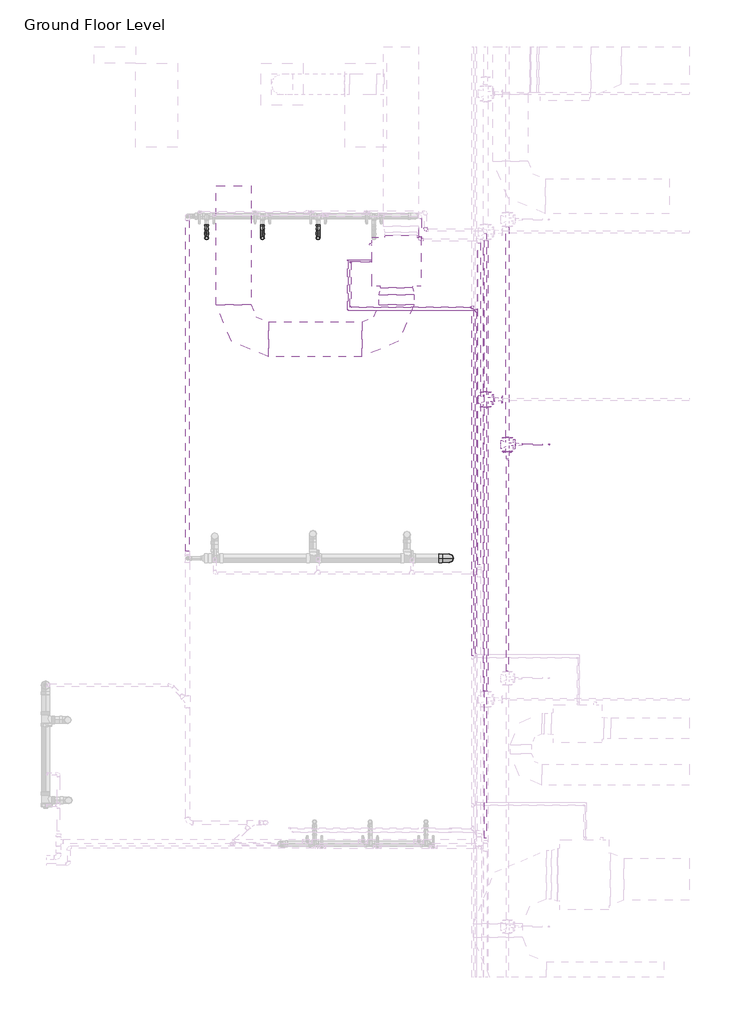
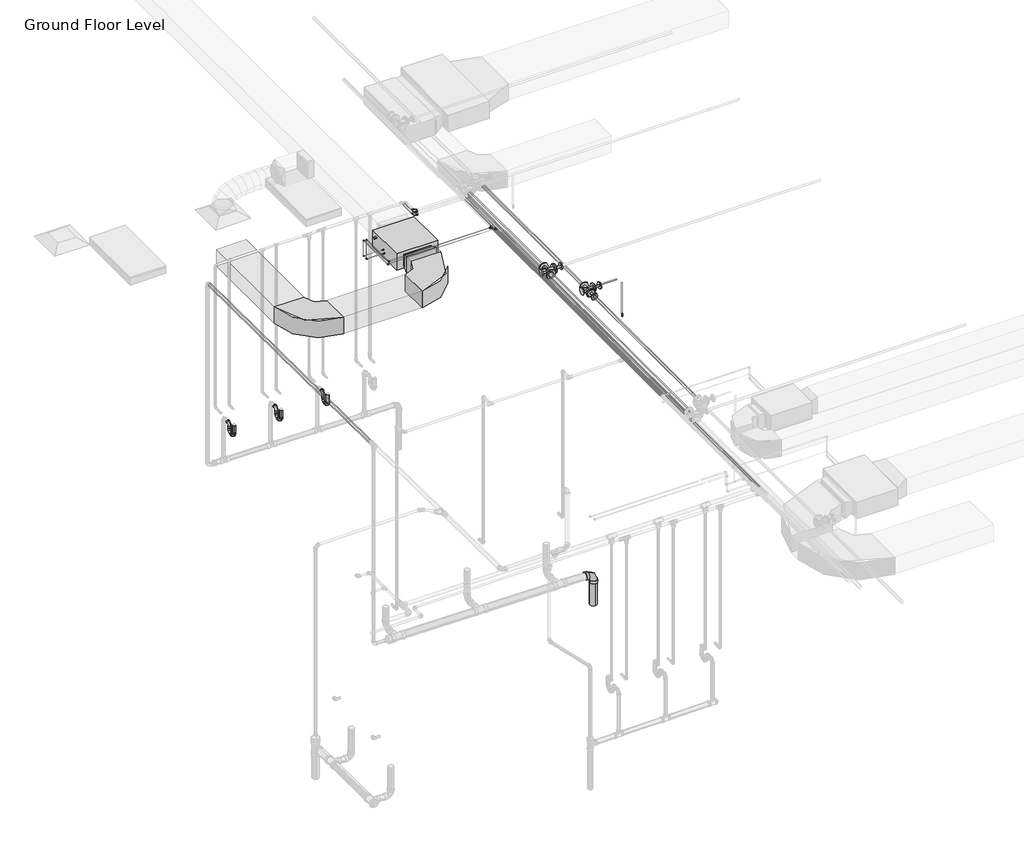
# One storey, part 21 of 74: 30 pipe segments, 27 pipe fittings, 3 duct fittings, 3 duct segments, 1 fire suppression terminal, 1 proxy.
"""IFC4 building model written with IfcOpenShell, lengths in millimetres."""

from ifc_helpers import new_model, si_unit, point, frame, frame_2d, origin, place, context, project, spatial, polyline, circle_curve, trimmed, segment, composite_curve, outline, extrude, transform, mapped, element, save
from components import fcu_daikin_iu_bad131e0, m_rectangular_elbow_radius_1_w_abe20169, m_rectangular_transition_angle_45_degree_f7c2916c, m_sprinkler_pendent_15_mm_pendent_06fcbd8e, m_bend_pvc_sch_40_dwv_standard_b7b4a97e, m_bend_pvc_sch_40_dwv_standard_1e7bdcc1, m_bend_pvc_sch_40_dwv_standard_776e50c4, m_elbow_generic_standard_a088f956, m_elbow_generic_standard_2a704253, m_reducer_flanged_cs_class_150_standard_b6b67c23, m_reducer_flanged_cs_class_150_standard_cc2a7c1d, m_reducer_flanged_cs_class_150_standard_a7631c35, m_tee_generic_standard_5b2ed4d4, m_tee_generic_standard_5078887e, m_tee_round_base_flanged_cs_class_150_standard_dd767e04, m_tee_round_base_flanged_cs_class_150_standard_9c9133d0, m_transition_generic_standard_bdcfe2c1, m_transition_generic_standard_44e35838, standard_517a5a8d

model = new_model("IFC4")

# Units and contexts
model_context = context("Model", 3, world=origin())
ifc_project = project(units=[si_unit("LENGTHUNIT", "METRE", prefix="MILLI")], contexts=[model_context])

# Site, building, storey
site = spatial("IfcSite", under=ifc_project)
building = spatial("IfcBuilding", under=site)
storey = spatial("IfcBuildingStorey", under=building, Name="Ground Floor Level", Elevation=900.0)

# Proxy
placement = place(None, origin())
fcu_daikin_iu_shape = fcu_daikin_iu_bad131e0(model_context)
element("IfcBuildingElementProxy", 1, Name="FCU-DAIKIN IU : 4.5kW, 230V/50Hz/1Ph", ObjectType="FCU-DAIKIN IU : 4.5kW, 230V/50Hz/1Ph", at=placement, inside=storey, context=model_context, shape_type="MappedRepresentation", body=[
    mapped(fcu_daikin_iu_shape, transform((4405.6581832, -24507.2627051, 3934.1054453), x_axis=(-1.0, 0.0, 0.0), y_axis=(0.0, -1.0, 0.0), z_axis=(0.0, 0.0, 1.0))),
])

# Duct fittings
m_rectangular_elbow_radius_1_w_shape = m_rectangular_elbow_radius_1_w_abe20169(model_context)
element("IfcDuctFitting", 2, ObjectType="M_Rectangular Elbow - Radius : 1 W", at=placement, inside=storey, context=model_context, shape_type="MappedRepresentation", body=[
    mapped(m_rectangular_elbow_radius_1_w_shape, transform((4405.6581832, -25622.6440715, 4075.3054453), x_axis=(1.0, 0.0, 0.0), y_axis=(0.0, 1.0, 0.0), z_axis=(0.0, 0.0, 1.0))),
])
element("IfcDuctFitting", 3, ObjectType="M_Rectangular Elbow - Radius : 1 W", at=placement, inside=storey, context=model_context, shape_type="MappedRepresentation", body=[
    mapped(m_rectangular_elbow_radius_1_w_shape, transform((2065.6581888, -25622.6440715, 4075.2875), x_axis=(0.0, -1.0, 0.0), y_axis=(1.0, 0.0, 0.0), z_axis=(0.0, 0.0, 1.0))),
])
m_rectangular_transition_angle_45_degree_shape = m_rectangular_transition_angle_45_degree_f7c2916c(model_context)
element("IfcDuctFitting", 4, ObjectType="M_Rectangular Transition - Angle : 45 Degree", at=placement, inside=storey, context=model_context, shape_type="MappedRepresentation", body=[
    mapped(m_rectangular_transition_angle_45_degree_shape, transform((4405.6581832, -24882.6627051, 4075.3054453), x_axis=(0.0, -1.0, 0.0), y_axis=(1.0, 0.0, 0.0), z_axis=(0.0, 0.0, 1.0))),
])

# Duct segments
element("IfcDuctSegment", 5, ObjectType="Radius Elbows / Taps", at=placement, inside=storey, context=model_context, shape_type="SweptSolid", body=[
    extrude(outline(polyline([(4155.6581832, -24986.1117562), (4655.6581832, -24986.1117562), (4655.6581832, -25122.6440715), (4155.6581832, -25122.6440715), (4155.6581832, -24986.1117562)])), frame((0.0, 0.0, 3925.3054453), z_axis=(0.0, 0.0, 1.0), x_axis=(1.0, 0.0, 0.0)), (0.0, 0.0, 1.0), 300.0),
])
element("IfcDuctSegment", 6, ObjectType="Radius Elbows / Taps", at=placement, inside=storey, context=model_context, shape_type="SweptSolid", body=[
    extrude(outline(polyline([(0.0, -500.0), (0.0, 0.0), (1339.9999945, 0.0), (1339.9999945, -500.0), (0.0, -500.0)])), frame((3905.660192, -25872.6440715, 3925.3054453), z_axis=(-1.3392036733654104e-05, 0.0, 0.9999999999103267), x_axis=(-0.9999999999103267, 0.0, -1.3392036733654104e-05)), (0.0, 0.0, 1.0), 300.0),
])
element("IfcDuctSegment", 7, ObjectType="Radius Elbows / Taps", at=placement, inside=storey, context=model_context, shape_type="SweptSolid", body=[
    extrude(outline(polyline([(2315.6581888, -25122.6440715), (1815.6581888, -25122.6440715), (1815.6581888, -23422.6440715), (2315.6581888, -23422.6440715), (2315.6581888, -25122.6440715)])), frame((0.0, 0.0, 3925.2875), z_axis=(0.0, 0.0, 1.0), x_axis=(1.0, 0.0, 0.0)), (0.0, 0.0, 1.0), 300.0),
])

# Fire suppression terminal
m_sprinkler_pendent_15_mm_pendent_shape = m_sprinkler_pendent_15_mm_pendent_06fcbd8e(model_context)
element("IfcFireSuppressionTerminal", 8, ObjectType="M_Sprinkler - Pendent : 15 mm Pendent", at=placement, inside=storey, context=model_context, shape_type="MappedRepresentation", body=[
    mapped(m_sprinkler_pendent_15_mm_pendent_shape, transform((6592.5481019, -27129.3982359, 3650.0), x_axis=(1.0, 0.0, 0.0), y_axis=(0.0, 1.0, 0.0), z_axis=(0.0, 0.0, 1.0))),
])

# Pipe fittings
m_bend_pvc_sch_40_dwv_standard_shape = m_bend_pvc_sch_40_dwv_standard_b7b4a97e(model_context)
element("IfcPipeFitting", 9, ObjectType="M_Bend - PVC - Sch 40 - DWV : Standard", at=placement, inside=storey, context=model_context, shape_type="MappedRepresentation", body=[
    mapped(m_bend_pvc_sch_40_dwv_standard_shape, transform((5158.4803359, -28761.5689421, 448.4416158), x_axis=(0.9999500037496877, 0.0, -0.00999950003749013), y_axis=(-0.00999950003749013, 0.0, -0.9999500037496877), z_axis=(0.0, 1.0, 0.0))),
])
m_bend_pvc_sch_40_dwv_standard_2_shape = m_bend_pvc_sch_40_dwv_standard_1e7bdcc1(model_context)
element("IfcPipeFitting", 10, ObjectType="M_Bend - PVC - Sch 40 - DWV : Standard", at=placement, inside=storey, context=model_context, shape_type="MappedRepresentation", body=[
    mapped(m_bend_pvc_sch_40_dwv_standard_2_shape, transform((1679.14976, -24168.3528577, 1360.0000049), x_axis=(0.0, 0.0, -1.0), y_axis=(0.0, 1.0, 0.0), z_axis=(1.0, 0.0, 0.0))),
])
element("IfcPipeFitting", 11, ObjectType="M_Bend - PVC - Sch 40 - DWV : Standard", at=placement, inside=storey, context=model_context, shape_type="MappedRepresentation", body=[
    mapped(m_bend_pvc_sch_40_dwv_standard_2_shape, transform((2479.14976, -24168.3528577, 1360.00001), x_axis=(0.0, -0.9999500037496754, 0.009999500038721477), y_axis=(0.0, 0.009999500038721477, 0.9999500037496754), z_axis=(-1.0, 0.0, 0.0))),
])
element("IfcPipeFitting", 12, ObjectType="M_Bend - PVC - Sch 40 - DWV : Standard", at=placement, inside=storey, context=model_context, shape_type="MappedRepresentation", body=[
    mapped(m_bend_pvc_sch_40_dwv_standard_2_shape, transform((3279.14976, -24168.3528577, 1360.0000049), x_axis=(0.0, -0.9999500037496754, 0.009999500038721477), y_axis=(0.0, 0.009999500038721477, 0.9999500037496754), z_axis=(-1.0, 0.0, 0.0))),
])
m_bend_pvc_sch_40_dwv_standard_3_shape = m_bend_pvc_sch_40_dwv_standard_776e50c4(model_context)
element("IfcPipeFitting", 13, ObjectType="M_Bend - PVC - Sch 40 - DWV : Standard", at=placement, inside=storey, context=model_context, shape_type="MappedRepresentation", body=[
    mapped(m_bend_pvc_sch_40_dwv_standard_3_shape, transform((1679.14976, -24038.3523645, 1358.7), x_axis=(0.0, 0.9999500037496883, -0.009999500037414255), y_axis=(0.0, 0.009999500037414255, 0.9999500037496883), z_axis=(1.0, 0.0, 0.0))),
])
element("IfcPipeFitting", 14, ObjectType="M_Bend - PVC - Sch 40 - DWV : Standard", at=placement, inside=storey, context=model_context, shape_type="MappedRepresentation", body=[
    mapped(m_bend_pvc_sch_40_dwv_standard_3_shape, transform((1679.14976, -24038.3523645, 1510.0493267), x_axis=(0.0, 0.0, 1.0), y_axis=(0.0, 1.0, 0.0), z_axis=(-1.0, 0.0, 0.0))),
])
element("IfcPipeFitting", 15, ObjectType="M_Bend - PVC - Sch 40 - DWV : Standard", at=placement, inside=storey, context=model_context, shape_type="MappedRepresentation", body=[
    mapped(m_bend_pvc_sch_40_dwv_standard_3_shape, transform((2479.14976, -24038.3518579, 1358.7), x_axis=(0.0, 0.9999500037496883, -0.009999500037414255), y_axis=(0.0, 0.009999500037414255, 0.9999500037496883), z_axis=(1.0, 0.0, 0.0))),
])
element("IfcPipeFitting", 16, ObjectType="M_Bend - PVC - Sch 40 - DWV : Standard", at=placement, inside=storey, context=model_context, shape_type="MappedRepresentation", body=[
    mapped(m_bend_pvc_sch_40_dwv_standard_3_shape, transform((2479.14976, -24038.3518579, 1510.09999), x_axis=(0.0, 0.0, 1.0), y_axis=(0.0, 1.0, 0.0), z_axis=(-1.0, 0.0, 0.0))),
])
element("IfcPipeFitting", 17, ObjectType="M_Bend - PVC - Sch 40 - DWV : Standard", at=placement, inside=storey, context=model_context, shape_type="MappedRepresentation", body=[
    mapped(m_bend_pvc_sch_40_dwv_standard_3_shape, transform((3279.14976, -24038.3523645, 1358.7), x_axis=(0.0, 0.9999500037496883, -0.009999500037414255), y_axis=(0.0, 0.009999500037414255, 0.9999500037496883), z_axis=(1.0, 0.0, 0.0))),
])
element("IfcPipeFitting", 18, ObjectType="M_Bend - PVC - Sch 40 - DWV : Standard", at=placement, inside=storey, context=model_context, shape_type="MappedRepresentation", body=[
    mapped(m_bend_pvc_sch_40_dwv_standard_3_shape, transform((3279.14976, -24038.3523645, 1510.0493267), x_axis=(0.0, 0.0, 1.0), y_axis=(0.0, 1.0, 0.0), z_axis=(-1.0, 0.0, 0.0))),
])
m_elbow_generic_standard_shape = m_elbow_generic_standard_a088f956(model_context)
element("IfcPipeFitting", 19, ObjectType="M_Elbow - Generic : Standard", at=placement, inside=storey, context=model_context, shape_type="MappedRepresentation", body=[
    mapped(m_elbow_generic_standard_shape, transform((3741.7995393, -24507.2440715, 4034.0875), x_axis=(-1.0, 0.0, 0.0), y_axis=(0.0, 0.0, 1.0), z_axis=(0.0, 1.0, 0.0))),
])
element("IfcPipeFitting", 20, ObjectType="M_Elbow - Generic : Standard", at=placement, inside=storey, context=model_context, shape_type="MappedRepresentation", body=[
    mapped(m_elbow_generic_standard_shape, transform((3741.7995393, -24507.2440715, 4390.0), x_axis=(0.0, 0.0, 1.0), y_axis=(0.0, -1.0, 0.0), z_axis=(1.0, 0.0, 0.0))),
])
element("IfcPipeFitting", 21, ObjectType="M_Elbow - Generic : Standard", at=placement, inside=storey, context=model_context, shape_type="MappedRepresentation", body=[
    mapped(m_elbow_generic_standard_shape, transform((3741.7995393, -25162.0896488, 4390.0), x_axis=(0.0, -1.0, 0.0), y_axis=(1.0, 0.0, 0.0), z_axis=(0.0, 0.0, 1.0))),
])
m_elbow_generic_standard_2_shape = m_elbow_generic_standard_2a704253(model_context)
element("IfcPipeFitting", 22, ObjectType="M_Elbow - Generic : Standard", at=placement, inside=storey, context=model_context, shape_type="MappedRepresentation", body=[
    mapped(m_elbow_generic_standard_2_shape, transform((3705.4496688, -24482.2440715, 4084.8875), x_axis=(-1.0, 0.0, 0.0), y_axis=(0.0, 0.0, 1.0), z_axis=(0.0, 1.0, 0.0))),
])
element("IfcPipeFitting", 23, ObjectType="M_Elbow - Generic : Standard", at=placement, inside=storey, context=model_context, shape_type="MappedRepresentation", body=[
    mapped(m_elbow_generic_standard_2_shape, transform((3705.4496688, -24482.2440715, 4377.5), x_axis=(0.0, 0.0, 1.0), y_axis=(0.0, -1.0, 0.0), z_axis=(1.0, 0.0, 0.0))),
])
element("IfcPipeFitting", 24, ObjectType="M_Elbow - Generic : Standard", at=placement, inside=storey, context=model_context, shape_type="MappedRepresentation", body=[
    mapped(m_elbow_generic_standard_2_shape, transform((3705.4496688, -25206.4899508, 4377.5), x_axis=(0.0, -1.0, 0.0), y_axis=(1.0, 0.0, 0.0), z_axis=(0.0, 0.0, 1.0))),
])
m_reducer_flanged_cs_class_150_standard_shape = m_reducer_flanged_cs_class_150_standard_b6b67c23(model_context)
element("IfcPipeFitting", 25, ObjectType="M_Reducer - Flanged - CS - Class 150 : Standard", at=placement, inside=storey, context=model_context, shape_type="MappedRepresentation", body=[
    mapped(m_reducer_flanged_cs_class_150_standard_shape, transform((5997.057812, -27235.4968297, 4291.0943441), x_axis=(0.0, -1.0, 0.0), y_axis=(1.0, 0.0, 0.0), z_axis=(0.0, 0.0, 1.0))),
])
m_reducer_flanged_cs_class_150_standard_2_shape = m_reducer_flanged_cs_class_150_standard_cc2a7c1d(model_context)
element("IfcPipeFitting", 26, ObjectType="M_Reducer - Flanged - CS - Class 150 : Standard", at=placement, inside=storey, context=model_context, shape_type="MappedRepresentation", body=[
    mapped(m_reducer_flanged_cs_class_150_standard_2_shape, transform((6103.1564057, -27129.3982359, 4291.2754753), x_axis=(1.0, 0.0, 0.0), y_axis=(0.0, 0.0, -1.0), z_axis=(0.0, 1.0, 0.0))),
])
m_reducer_flanged_cs_class_150_standard_3_shape = m_reducer_flanged_cs_class_150_standard_a7631c35(model_context)
element("IfcPipeFitting", 27, ObjectType="M_Reducer - Flanged - CS - Class 150 : Standard", at=placement, inside=storey, context=model_context, shape_type="MappedRepresentation", body=[
    mapped(m_reducer_flanged_cs_class_150_standard_3_shape, transform((5798.6174894, -26484.6295433, 4347.5), x_axis=(1.0, 0.0, 0.0), y_axis=(0.0, 0.0, 1.0), z_axis=(0.0, -1.0, 0.0))),
])
m_tee_generic_standard_shape = m_tee_generic_standard_5b2ed4d4(model_context)
element("IfcPipeFitting", 28, ObjectType="M_Tee - Generic : Standard", at=placement, inside=storey, context=model_context, shape_type="MappedRepresentation", body=[
    mapped(m_tee_generic_standard_shape, transform((5543.9904113, -25206.4899508, 4377.5), x_axis=(0.0, -1.0, 0.0), y_axis=(1.0, 0.0, 0.0), z_axis=(0.0, 0.0, 1.0))),
])
m_tee_generic_standard_2_shape = m_tee_generic_standard_5078887e(model_context)
element("IfcPipeFitting", 29, ObjectType="M_Tee - Generic : Standard", at=placement, inside=storey, context=model_context, shape_type="MappedRepresentation", body=[
    mapped(m_tee_generic_standard_2_shape, transform((5497.8951827, -25162.0896488, 4390.0), x_axis=(0.0, -1.0, 0.0), y_axis=(1.0, 0.0, 0.0), z_axis=(0.0, 0.0, 1.0))),
])
m_tee_round_base_flanged_cs_class_150_standard_shape = m_tee_round_base_flanged_cs_class_150_standard_dd767e04(model_context)
element("IfcPipeFitting", 30, ObjectType="M_Tee Round Base - Flanged - CS - Class 150 : Standard", at=placement, inside=storey, context=model_context, shape_type="MappedRepresentation", body=[
    mapped(m_tee_round_base_flanged_cs_class_150_standard_shape, transform((5684.6174894, -26484.6295433, 4347.5), x_axis=(0.0, -1.0, 0.0), y_axis=(-1.0, 0.0, 0.0), z_axis=(0.0, 0.0, -1.0))),
])
m_tee_round_base_flanged_cs_class_150_standard_2_shape = m_tee_round_base_flanged_cs_class_150_standard_9c9133d0(model_context)
element("IfcPipeFitting", 31, ObjectType="M_Tee Round Base - Flanged - CS - Class 150 : Standard", at=placement, inside=storey, context=model_context, shape_type="MappedRepresentation", body=[
    mapped(m_tee_round_base_flanged_cs_class_150_standard_2_shape, transform((5997.057812, -27129.3982359, 4291.0943441), x_axis=(0.0, 1.0, 0.0), y_axis=(-1.0, 0.0, 0.0), z_axis=(0.0, 0.0, 1.0))),
])
m_transition_generic_standard_shape = m_transition_generic_standard_bdcfe2c1(model_context)
element("IfcPipeFitting", 32, ObjectType="M_Transition - Generic : Standard", at=placement, inside=storey, context=model_context, shape_type="MappedRepresentation", body=[
    mapped(m_transition_generic_standard_shape, transform((5523.3529113, -25206.4899508, 4377.5), x_axis=(-1.0, 0.0, 0.0), y_axis=(0.0, -1.0, 0.0), z_axis=(0.0, 0.0, 1.0))),
])
m_transition_generic_standard_2_shape = m_transition_generic_standard_44e35838(model_context)
element("IfcPipeFitting", 33, ObjectType="M_Transition - Generic : Standard", at=placement, inside=storey, context=model_context, shape_type="MappedRepresentation", body=[
    mapped(m_transition_generic_standard_2_shape, transform((5474.0826827, -25162.0896488, 4390.0), x_axis=(-1.0, 0.0, 0.0), y_axis=(0.0, -1.0, 0.0), z_axis=(0.0, 0.0, 1.0))),
])
standard_shape = standard_517a5a8d(model_context)
element("IfcPipeFitting", 34, ObjectType="M_Elbow - CPVC - Sch 40 : Standard", at=placement, inside=storey, context=model_context, shape_type="MappedRepresentation", body=[
    mapped(standard_shape, transform((4743.0647206, -24195.7825432, 4300.0), x_axis=(0.0, -1.0, 0.0), y_axis=(1.0, 0.0, 0.0), z_axis=(0.0, 0.0, 1.0))),
])
element("IfcPipeFitting", 35, ObjectType="M_Elbow - CPVC - Sch 40 : Standard", at=placement, inside=storey, context=model_context, shape_type="MappedRepresentation", body=[
    mapped(standard_shape, transform((4820.5575802, -24054.921633, 4250.0), x_axis=(0.0, -1.0, 0.0), y_axis=(1.0, 0.0, 0.0), z_axis=(0.0, 0.0, 1.0))),
])

# Pipe segments
element("IfcPipeSegment", 36, ObjectType="CPVC", at=placement, inside=storey, context=model_context, shape_type="SweptSolid", body=[
    extrude(outline(composite_curve([segment(trimmed(circle_curve(frame_2d((4300.0, 4743.0647206)), 16.7005), [point((4300.0, 4726.3642206))], [point((4283.2995, 4743.0647206))], False, "CARTESIAN"), True, "CONTINUOUS"), segment(trimmed(circle_curve(frame_2d((4300.0, 4743.0647206)), 16.7005), [point((4283.2995, 4743.0647206))], [point((4300.0, 4759.7652206))], False, "CARTESIAN"), True, "CONTINUOUS"), segment(trimmed(circle_curve(frame_2d((4300.0, 4743.0647206)), 16.7005), [point((4300.0, 4759.7652206))], [point((4316.7005, 4743.0647206))], False, "CARTESIAN"), True, "CONTINUOUS"), segment(trimmed(circle_curve(frame_2d((4300.0, 4743.0647206)), 16.7005), [point((4316.7005, 4743.0647206))], [point((4300.0, 4726.3642206))], False, "CARTESIAN"), True, "CONTINUOUS")], self_intersect=False)), frame((0.0, -24152.5199932, 0.0), z_axis=(0.0, 1.0, 0.0), x_axis=(0.0, 0.0, 1.0)), (0.0, 0.0, 1.0), 264.4727966),
])
element("IfcPipeSegment", 37, ObjectType="CPVC", at=placement, inside=storey, context=model_context, shape_type="SweptSolid", body=[
    extrude(outline(composite_curve([segment(trimmed(circle_curve(frame_2d((4300.0, 5589.646628)), 16.7005), [point((4300.0, 5572.946128))], [point((4283.2995, 5589.646628))], False, "CARTESIAN"), True, "CONTINUOUS"), segment(trimmed(circle_curve(frame_2d((4300.0, 5589.646628)), 16.7005), [point((4283.2995, 5589.646628))], [point((4300.0, 5606.347128))], False, "CARTESIAN"), True, "CONTINUOUS"), segment(trimmed(circle_curve(frame_2d((4300.0, 5589.646628)), 16.7005), [point((4300.0, 5606.347128))], [point((4316.7005, 5589.646628))], False, "CARTESIAN"), True, "CONTINUOUS"), segment(trimmed(circle_curve(frame_2d((4300.0, 5589.646628)), 16.7005), [point((4316.7005, 5589.646628))], [point((4300.0, 5572.946128))], False, "CARTESIAN"), True, "CONTINUOUS")], self_intersect=False)), frame((0.0, -28854.6907716, 0.0), z_axis=(0.0, 1.0, 0.0), x_axis=(0.0, 0.0, 1.0)), (0.0, 0.0, 1.0), 4615.6456784),
])
element("IfcPipeSegment", 38, ObjectType="CPVC", at=placement, inside=storey, context=model_context, shape_type="SweptSolid", body=[
    extrude(outline(composite_curve([segment(trimmed(circle_curve(frame_2d((4250.0, 5680.5575802)), 16.7005), [point((4250.0, 5697.2580802))], [point((4266.7005, 5680.5575802))], False, "CARTESIAN"), True, "CONTINUOUS"), segment(trimmed(circle_curve(frame_2d((4250.0, 5680.5575802)), 16.7005), [point((4266.7005, 5680.5575802))], [point((4250.0, 5663.8570802))], False, "CARTESIAN"), True, "CONTINUOUS"), segment(trimmed(circle_curve(frame_2d((4250.0, 5680.5575802)), 16.7005), [point((4250.0, 5663.8570802))], [point((4233.2995, 5680.5575802))], False, "CARTESIAN"), True, "CONTINUOUS"), segment(trimmed(circle_curve(frame_2d((4250.0, 5680.5575802)), 16.7005), [point((4233.2995, 5680.5575802))], [point((4250.0, 5697.2580802))], False, "CARTESIAN"), True, "CONTINUOUS")], self_intersect=False)), frame((0.0, -32774.921633, 0.0), z_axis=(0.0, 1.0, 0.0), x_axis=(0.0, 0.0, 1.0)), (0.0, 0.0, 1.0), 8676.73745),
])
element("IfcPipeSegment", 39, ObjectType="Copper", at=placement, inside=storey, context=model_context, shape_type="SweptSolid", body=[
    extrude(outline(composite_curve([segment(trimmed(circle_curve(frame_2d((-25206.4899508, 4377.5)), 3.35), [point((-25209.8399508, 4377.5))], [point((-25206.4899508, 4380.85))], False, "CARTESIAN"), True, "CONTINUOUS"), segment(trimmed(circle_curve(frame_2d((-25206.4899508, 4377.5)), 3.35), [point((-25206.4899508, 4380.85))], [point((-25203.1399508, 4377.5))], False, "CARTESIAN"), True, "CONTINUOUS"), segment(trimmed(circle_curve(frame_2d((-25206.4899508, 4377.5)), 3.35), [point((-25203.1399508, 4377.5))], [point((-25206.4899508, 4374.15))], False, "CARTESIAN"), True, "CONTINUOUS"), segment(trimmed(circle_curve(frame_2d((-25206.4899508, 4377.5)), 3.35), [point((-25206.4899508, 4374.15))], [point((-25209.8399508, 4377.5))], False, "CARTESIAN"), True, "CONTINUOUS")], self_intersect=False)), frame((3716.5871688, 0.0, 0.0), z_axis=(1.0, 0.0, 0.0), x_axis=(0.0, 1.0, 0.0)), (0.0, 0.0, 1.0), 1802.7969926),
])
element("IfcPipeSegment", 40, ObjectType="Copper", at=placement, inside=storey, context=model_context, shape_type="SweptSolid", body=[
    extrude(outline(composite_curve([segment(trimmed(circle_curve(frame_2d((-25162.0896488, 4390.0)), 6.5), [point((-25168.5896488, 4390.0))], [point((-25162.0896488, 4396.5))], False, "CARTESIAN"), True, "CONTINUOUS"), segment(trimmed(circle_curve(frame_2d((-25162.0896488, 4390.0)), 6.5), [point((-25162.0896488, 4396.5))], [point((-25155.5896488, 4390.0))], False, "CARTESIAN"), True, "CONTINUOUS"), segment(trimmed(circle_curve(frame_2d((-25162.0896488, 4390.0)), 6.5), [point((-25155.5896488, 4390.0))], [point((-25162.0896488, 4383.5))], False, "CARTESIAN"), True, "CONTINUOUS"), segment(trimmed(circle_curve(frame_2d((-25162.0896488, 4390.0)), 6.5), [point((-25162.0896488, 4383.5))], [point((-25168.5896488, 4390.0))], False, "CARTESIAN"), True, "CONTINUOUS")], self_intersect=False)), frame((3756.0870393, 0.0, 0.0), z_axis=(1.0, 0.0, 0.0), x_axis=(0.0, 1.0, 0.0)), (0.0, 0.0, 1.0), 1712.4393933),
])
element("IfcPipeSegment", 41, ObjectType="Copper", at=placement, inside=storey, context=model_context, shape_type="SweptSolid", body=[
    extrude(outline(composite_curve([segment(trimmed(circle_curve(frame_2d((4377.5, 3705.4496688)), 3.35), [point((4377.5, 3702.0996688))], [point((4374.15, 3705.4496688))], False, "CARTESIAN"), True, "CONTINUOUS"), segment(trimmed(circle_curve(frame_2d((4377.5, 3705.4496688)), 3.35), [point((4374.15, 3705.4496688))], [point((4377.5, 3708.7996688))], False, "CARTESIAN"), True, "CONTINUOUS"), segment(trimmed(circle_curve(frame_2d((4377.5, 3705.4496688)), 3.35), [point((4377.5, 3708.7996688))], [point((4380.85, 3705.4496688))], False, "CARTESIAN"), True, "CONTINUOUS"), segment(trimmed(circle_curve(frame_2d((4377.5, 3705.4496688)), 3.35), [point((4380.85, 3705.4496688))], [point((4377.5, 3702.0996688))], False, "CARTESIAN"), True, "CONTINUOUS")], self_intersect=False)), frame((0.0, -25195.3524508, 0.0), z_axis=(0.0, 1.0, 0.0), x_axis=(0.0, 0.0, 1.0)), (0.0, 0.0, 1.0), 701.9708793),
])
element("IfcPipeSegment", 42, ObjectType="Copper", at=placement, inside=storey, context=model_context, shape_type="SweptSolid", body=[
    extrude(outline(composite_curve([segment(trimmed(circle_curve(frame_2d((4390.0, 3741.7995393)), 6.5), [point((4390.0, 3735.2995393))], [point((4383.5, 3741.7995393))], False, "CARTESIAN"), True, "CONTINUOUS"), segment(trimmed(circle_curve(frame_2d((4390.0, 3741.7995393)), 6.5), [point((4383.5, 3741.7995393))], [point((4390.0, 3748.2995393))], False, "CARTESIAN"), True, "CONTINUOUS"), segment(trimmed(circle_curve(frame_2d((4390.0, 3741.7995393)), 6.5), [point((4390.0, 3748.2995393))], [point((4396.5, 3741.7995393))], False, "CARTESIAN"), True, "CONTINUOUS"), segment(trimmed(circle_curve(frame_2d((4390.0, 3741.7995393)), 6.5), [point((4396.5, 3741.7995393))], [point((4390.0, 3735.2995393))], False, "CARTESIAN"), True, "CONTINUOUS")], self_intersect=False)), frame((0.0, -25147.8021488, 0.0), z_axis=(0.0, 1.0, 0.0), x_axis=(0.0, 0.0, 1.0)), (0.0, 0.0, 1.0), 626.2705772),
])
element("IfcPipeSegment", 43, ObjectType="Copper", at=placement, inside=storey, context=model_context, shape_type="SweptSolid", body=[
    extrude(outline(composite_curve([segment(trimmed(circle_curve(frame_2d((0.0, -6.5)), 6.5), [point((-6.5, -6.5))], [point((1e-07, 0.0))], False, "CARTESIAN"), True, "CONTINUOUS"), segment(trimmed(circle_curve(frame_2d((0.0, -6.5)), 6.5), [point((1e-07, 0.0))], [point((6.5, -6.5))], False, "CARTESIAN"), True, "CONTINUOUS"), segment(trimmed(circle_curve(frame_2d((0.0, -6.5)), 6.5), [point((6.5, -6.5))], [point((0.0, -13.0))], False, "CARTESIAN"), True, "CONTINUOUS"), segment(trimmed(circle_curve(frame_2d((0.0, -6.5)), 6.5), [point((0.0, -13.0))], [point((-6.5, -6.5))], False, "CARTESIAN"), True, "CONTINUOUS")], self_intersect=False)), frame((3756.0874855, -24507.2440715, 4027.5875), z_axis=(0.9999999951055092, -7.12643563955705e-05, 6.86321587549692e-05), x_axis=(-7.126435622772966e-05, -0.9999999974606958, -4.891026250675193e-09)), (0.0, 0.0, 1.0), 261.4711452),
])
element("IfcPipeSegment", 44, ObjectType="Copper", at=placement, inside=storey, context=model_context, shape_type="SweptSolid", body=[
    extrude(outline(composite_curve([segment(trimmed(circle_curve(frame_2d((0.0, -3.35)), 3.35), [point((-3.35, -3.35))], [point((0.0, 0.0))], False, "CARTESIAN"), True, "CONTINUOUS"), segment(trimmed(circle_curve(frame_2d((0.0, -3.35)), 3.35), [point((0.0, 0.0))], [point((3.35, -3.35))], False, "CARTESIAN"), True, "CONTINUOUS"), segment(trimmed(circle_curve(frame_2d((0.0, -3.35)), 3.35), [point((3.35, -3.35))], [point((0.0, -6.7))], False, "CARTESIAN"), True, "CONTINUOUS"), segment(trimmed(circle_curve(frame_2d((0.0, -3.35)), 3.35), [point((0.0, -6.7))], [point((-3.35, -3.35))], False, "CARTESIAN"), True, "CONTINUOUS")], self_intersect=False)), frame((3716.5873685, -24482.2440715, 4081.5375), z_axis=(0.9999999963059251, -6.191151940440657e-05, 5.962477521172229e-05), x_axis=(-6.191151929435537e-05, -0.999999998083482, -3.691459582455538e-09)), (0.0, 0.0, 1.0), 300.9710156),
])
element("IfcPipeSegment", 45, ObjectType="Copper", at=placement, inside=storey, context=model_context, shape_type="SweptSolid", body=[
    extrude(outline(composite_curve([segment(trimmed(circle_curve(frame_2d((3705.4496688, -24482.2440715)), 3.35), [point((3702.0996688, -24482.2440715))], [point((3705.4496688, -24478.8940715))], False, "CARTESIAN"), True, "CONTINUOUS"), segment(trimmed(circle_curve(frame_2d((3705.4496688, -24482.2440715)), 3.35), [point((3705.4496688, -24478.8940715))], [point((3708.7996688, -24482.2440715))], False, "CARTESIAN"), True, "CONTINUOUS"), segment(trimmed(circle_curve(frame_2d((3705.4496688, -24482.2440715)), 3.35), [point((3708.7996688, -24482.2440715))], [point((3705.4496688, -24485.5940715))], False, "CARTESIAN"), True, "CONTINUOUS"), segment(trimmed(circle_curve(frame_2d((3705.4496688, -24482.2440715)), 3.35), [point((3705.4496688, -24485.5940715))], [point((3702.0996688, -24482.2440715))], False, "CARTESIAN"), True, "CONTINUOUS")], self_intersect=False)), frame((0.0, 0.0, 4096.025), z_axis=(0.0, 0.0, 1.0), x_axis=(1.0, 0.0, 0.0)), (0.0, 0.0, 1.0), 270.3375),
])
element("IfcPipeSegment", 46, ObjectType="Copper", at=placement, inside=storey, context=model_context, shape_type="SweptSolid", body=[
    extrude(outline(composite_curve([segment(trimmed(circle_curve(frame_2d((3741.7995393, -24507.2440715)), 6.5), [point((3735.2995393, -24507.2440715))], [point((3741.7995393, -24500.7440715))], False, "CARTESIAN"), True, "CONTINUOUS"), segment(trimmed(circle_curve(frame_2d((3741.7995393, -24507.2440715)), 6.5), [point((3741.7995393, -24500.7440715))], [point((3748.2995393, -24507.2440715))], False, "CARTESIAN"), True, "CONTINUOUS"), segment(trimmed(circle_curve(frame_2d((3741.7995393, -24507.2440715)), 6.5), [point((3748.2995393, -24507.2440715))], [point((3741.7995393, -24513.7440715))], False, "CARTESIAN"), True, "CONTINUOUS"), segment(trimmed(circle_curve(frame_2d((3741.7995393, -24507.2440715)), 6.5), [point((3741.7995393, -24513.7440715))], [point((3735.2995393, -24507.2440715))], False, "CARTESIAN"), True, "CONTINUOUS")], self_intersect=False)), frame((0.0, 0.0, 4048.375), z_axis=(0.0, 0.0, 1.0), x_axis=(1.0, 0.0, 0.0)), (0.0, 0.0, 1.0), 327.3375),
])
element("IfcPipeSegment", 47, ObjectType="Copper", at=placement, inside=storey, context=model_context, shape_type="SweptSolid", body=[
    extrude(outline(composite_curve([segment(trimmed(circle_curve(frame_2d((4377.5, 5543.9904113)), 6.5), [point((4377.5, 5550.4904113))], [point((4384.0, 5543.9904113))], False, "CARTESIAN"), True, "CONTINUOUS"), segment(trimmed(circle_curve(frame_2d((4377.5, 5543.9904113)), 6.5), [point((4384.0, 5543.9904113))], [point((4377.5, 5537.4904113))], False, "CARTESIAN"), True, "CONTINUOUS"), segment(trimmed(circle_curve(frame_2d((4377.5, 5543.9904113)), 6.5), [point((4377.5, 5537.4904113))], [point((4371.0, 5543.9904113))], False, "CARTESIAN"), True, "CONTINUOUS"), segment(trimmed(circle_curve(frame_2d((4377.5, 5543.9904113)), 6.5), [point((4371.0, 5543.9904113))], [point((4377.5, 5550.4904113))], False, "CARTESIAN"), True, "CONTINUOUS")], self_intersect=False)), frame((0.0, -30124.2941538, 0.0), z_axis=(0.0, 1.0, 0.0), x_axis=(0.0, 0.0, 1.0)), (0.0, 0.0, 1.0), 4897.166703),
])
element("IfcPipeSegment", 48, ObjectType="Copper", at=placement, inside=storey, context=model_context, shape_type="SweptSolid", body=[
    extrude(outline(composite_curve([segment(trimmed(circle_curve(frame_2d((4390.0, 5497.8951827)), 9.75), [point((4390.0, 5507.6451827))], [point((4399.75, 5497.8951827))], False, "CARTESIAN"), True, "CONTINUOUS"), segment(trimmed(circle_curve(frame_2d((4390.0, 5497.8951827)), 9.75), [point((4399.75, 5497.8951827))], [point((4390.0, 5488.1451827))], False, "CARTESIAN"), True, "CONTINUOUS"), segment(trimmed(circle_curve(frame_2d((4390.0, 5497.8951827)), 9.75), [point((4390.0, 5488.1451827))], [point((4380.25, 5497.8951827))], False, "CARTESIAN"), True, "CONTINUOUS"), segment(trimmed(circle_curve(frame_2d((4390.0, 5497.8951827)), 9.75), [point((4380.25, 5497.8951827))], [point((4390.0, 5507.6451827))], False, "CARTESIAN"), True, "CONTINUOUS")], self_intersect=False)), frame((0.0, -30163.6388653, 0.0), z_axis=(0.0, 1.0, 0.0), x_axis=(0.0, 0.0, 1.0)), (0.0, 0.0, 1.0), 4977.7367166),
])
element("IfcPipeSegment", 49, ObjectType="PVC - DWV", at=placement, inside=storey, context=model_context, shape_type="SweptSolid", body=[
    extrude(outline(composite_curve([segment(trimmed(circle_curve(frame_2d((1679.14976, -24168.3528577)), 24.13), [point((1703.27976, -24168.3528577))], [point((1679.14976, -24192.4828577))], False, "CARTESIAN"), True, "CONTINUOUS"), segment(trimmed(circle_curve(frame_2d((1679.14976, -24168.3528577)), 24.13), [point((1679.14976, -24192.4828577))], [point((1655.01976, -24168.3528577))], False, "CARTESIAN"), True, "CONTINUOUS"), segment(trimmed(circle_curve(frame_2d((1679.14976, -24168.3528577)), 24.13), [point((1655.01976, -24168.3528577))], [point((1679.14976, -24144.2228577))], False, "CARTESIAN"), True, "CONTINUOUS"), segment(trimmed(circle_curve(frame_2d((1679.14976, -24168.3528577)), 24.13), [point((1679.14976, -24144.2228577))], [point((1703.27976, -24168.3528577))], False, "CARTESIAN"), True, "CONTINUOUS")], self_intersect=False)), frame((0.0, 0.0, 1421.8998049), z_axis=(0.0, 0.0, 1.0), x_axis=(1.0, 0.0, 0.0)), (0.0, 0.0, 1.0), 128.1001951),
])
element("IfcPipeSegment", 50, ObjectType="PVC - DWV", at=placement, inside=storey, context=model_context, shape_type="SweptSolid", body=[
    extrude(outline(composite_curve([segment(trimmed(circle_curve(frame_2d((0.0, -24.1299999)), 24.13), [point((24.13, -24.1299999))], [point((0.0, -48.2599999))], False, "CARTESIAN"), True, "CONTINUOUS"), segment(trimmed(circle_curve(frame_2d((0.0, -24.1299999)), 24.13), [point((0.0, -48.2599999))], [point((-24.13, -24.1299999))], False, "CARTESIAN"), True, "CONTINUOUS"), segment(trimmed(circle_curve(frame_2d((0.0, -24.1299999)), 24.13), [point((-24.13, -24.1299999))], [point((0.0, 0.0))], False, "CARTESIAN"), True, "CONTINUOUS"), segment(trimmed(circle_curve(frame_2d((0.0, -24.1299999)), 24.13), [point((0.0, 0.0))], [point((24.13, -24.1299999))], False, "CARTESIAN"), True, "CONTINUOUS")], self_intersect=False)), frame((1679.14976, -24100.0077818, 1383.4477606), z_axis=(0.0, -0.9999500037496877, 0.009999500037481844), x_axis=(1.0, 0.0, 0.0)), (0.0, 0.0, 1.0), 6.2073931),
])
element("IfcPipeSegment", 51, ObjectType="PVC - DWV", at=placement, inside=storey, context=model_context, shape_type="SweptSolid", body=[
    extrude(outline(composite_curve([segment(trimmed(circle_curve(frame_2d((1679.14976, -24038.3523645)), 24.13), [point((1655.01976, -24038.3523645))], [point((1679.14976, -24014.2223645))], False, "CARTESIAN"), True, "CONTINUOUS"), segment(trimmed(circle_curve(frame_2d((1679.14976, -24038.3523645)), 24.13), [point((1679.14976, -24014.2223645))], [point((1703.27976, -24038.3523645))], False, "CARTESIAN"), True, "CONTINUOUS"), segment(trimmed(circle_curve(frame_2d((1679.14976, -24038.3523645)), 24.13), [point((1703.27976, -24038.3523645))], [point((1679.14976, -24062.4823645))], False, "CARTESIAN"), True, "CONTINUOUS"), segment(trimmed(circle_curve(frame_2d((1679.14976, -24038.3523645)), 24.13), [point((1679.14976, -24062.4823645))], [point((1655.01976, -24038.3523645))], False, "CARTESIAN"), True, "CONTINUOUS")], self_intersect=False)), frame((0.0, 0.0, 1420.5998), z_axis=(0.0, 0.0, 1.0), x_axis=(1.0, 0.0, 0.0)), (0.0, 0.0, 1.0), 27.5497267),
])
element("IfcPipeSegment", 52, ObjectType="PVC - DWV", at=placement, inside=storey, context=model_context, shape_type="SweptSolid", body=[
    extrude(outline(composite_curve([segment(trimmed(circle_curve(frame_2d((2479.14976, -24168.3528577)), 24.13), [point((2455.01976, -24168.3528577))], [point((2479.14976, -24144.2228577))], False, "CARTESIAN"), True, "CONTINUOUS"), segment(trimmed(circle_curve(frame_2d((2479.14976, -24168.3528577)), 24.13), [point((2479.14976, -24144.2228577))], [point((2503.27976, -24168.3528577))], False, "CARTESIAN"), True, "CONTINUOUS"), segment(trimmed(circle_curve(frame_2d((2479.14976, -24168.3528577)), 24.13), [point((2503.27976, -24168.3528577))], [point((2479.14976, -24192.4828577))], False, "CARTESIAN"), True, "CONTINUOUS"), segment(trimmed(circle_curve(frame_2d((2479.14976, -24168.3528577)), 24.13), [point((2479.14976, -24192.4828577))], [point((2455.01976, -24168.3528577))], False, "CARTESIAN"), True, "CONTINUOUS")], self_intersect=False)), frame((0.0, 0.0, 1421.89981), z_axis=(0.0, 0.0, 1.0), x_axis=(1.0, 0.0, 0.0)), (0.0, 0.0, 1.0), 128.10019),
])
element("IfcPipeSegment", 53, ObjectType="PVC - DWV", at=placement, inside=storey, context=model_context, shape_type="SweptSolid", body=[
    extrude(outline(composite_curve([segment(trimmed(circle_curve(frame_2d((0.0, -24.1299999)), 24.13), [point((24.13, -24.1299999))], [point((0.0, -48.2599999))], False, "CARTESIAN"), True, "CONTINUOUS"), segment(trimmed(circle_curve(frame_2d((0.0, -24.1299999)), 24.13), [point((0.0, -48.2599999))], [point((-24.13, -24.1299999))], False, "CARTESIAN"), True, "CONTINUOUS"), segment(trimmed(circle_curve(frame_2d((0.0, -24.1299999)), 24.13), [point((-24.13, -24.1299999))], [point((0.0, 0.0))], False, "CARTESIAN"), True, "CONTINUOUS"), segment(trimmed(circle_curve(frame_2d((0.0, -24.1299999)), 24.13), [point((0.0, 0.0))], [point((24.13, -24.1299999))], False, "CARTESIAN"), True, "CONTINUOUS")], self_intersect=False)), frame((2479.14976, -24100.0072752, 1383.4477606), z_axis=(0.0, -0.9999500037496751, 0.009999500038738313), x_axis=(1.0, 0.0, 0.0)), (0.0, 0.0, 1.0), 6.2078997),
])
element("IfcPipeSegment", 54, ObjectType="PVC - DWV", at=placement, inside=storey, context=model_context, shape_type="SweptSolid", body=[
    extrude(outline(composite_curve([segment(trimmed(circle_curve(frame_2d((2479.14976, -24038.3518579)), 24.13), [point((2455.01976, -24038.3518579))], [point((2479.14976, -24014.2218579))], False, "CARTESIAN"), True, "CONTINUOUS"), segment(trimmed(circle_curve(frame_2d((2479.14976, -24038.3518579)), 24.13), [point((2479.14976, -24014.2218579))], [point((2503.27976, -24038.3518579))], False, "CARTESIAN"), True, "CONTINUOUS"), segment(trimmed(circle_curve(frame_2d((2479.14976, -24038.3518579)), 24.13), [point((2503.27976, -24038.3518579))], [point((2479.14976, -24062.4818579))], False, "CARTESIAN"), True, "CONTINUOUS"), segment(trimmed(circle_curve(frame_2d((2479.14976, -24038.3518579)), 24.13), [point((2479.14976, -24062.4818579))], [point((2455.01976, -24038.3518579))], False, "CARTESIAN"), True, "CONTINUOUS")], self_intersect=False)), frame((0.0, 0.0, 1420.5998), z_axis=(0.0, 0.0, 1.0), x_axis=(1.0, 0.0, 0.0)), (0.0, 0.0, 1.0), 27.60039),
])
element("IfcPipeSegment", 55, ObjectType="PVC - DWV", at=placement, inside=storey, context=model_context, shape_type="SweptSolid", body=[
    extrude(outline(composite_curve([segment(trimmed(circle_curve(frame_2d((3279.14976, -24168.3528577)), 24.13), [point((3255.01976, -24168.3528577))], [point((3279.14976, -24144.2228577))], False, "CARTESIAN"), True, "CONTINUOUS"), segment(trimmed(circle_curve(frame_2d((3279.14976, -24168.3528577)), 24.13), [point((3279.14976, -24144.2228577))], [point((3303.27976, -24168.3528577))], False, "CARTESIAN"), True, "CONTINUOUS"), segment(trimmed(circle_curve(frame_2d((3279.14976, -24168.3528577)), 24.13), [point((3303.27976, -24168.3528577))], [point((3279.14976, -24192.4828577))], False, "CARTESIAN"), True, "CONTINUOUS"), segment(trimmed(circle_curve(frame_2d((3279.14976, -24168.3528577)), 24.13), [point((3279.14976, -24192.4828577))], [point((3255.01976, -24168.3528577))], False, "CARTESIAN"), True, "CONTINUOUS")], self_intersect=False)), frame((0.0, 0.0, 1421.8998049), z_axis=(0.0, 0.0, 1.0), x_axis=(1.0, 0.0, 0.0)), (0.0, 0.0, 1.0), 128.1001951),
])
element("IfcPipeSegment", 56, ObjectType="PVC - DWV", at=placement, inside=storey, context=model_context, shape_type="SweptSolid", body=[
    extrude(outline(composite_curve([segment(trimmed(circle_curve(frame_2d((0.0, -24.1299999)), 24.13), [point((24.13, -24.1299999))], [point((0.0, -48.2599999))], False, "CARTESIAN"), True, "CONTINUOUS"), segment(trimmed(circle_curve(frame_2d((0.0, -24.1299999)), 24.13), [point((0.0, -48.2599999))], [point((-24.13, -24.1299999))], False, "CARTESIAN"), True, "CONTINUOUS"), segment(trimmed(circle_curve(frame_2d((0.0, -24.1299999)), 24.13), [point((-24.13, -24.1299999))], [point((0.0, 0.0))], False, "CARTESIAN"), True, "CONTINUOUS"), segment(trimmed(circle_curve(frame_2d((0.0, -24.1299999)), 24.13), [point((0.0, 0.0))], [point((24.13, -24.1299999))], False, "CARTESIAN"), True, "CONTINUOUS")], self_intersect=False)), frame((3279.14976, -24100.0077818, 1383.4477606), z_axis=(0.0, -0.9999500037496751, 0.009999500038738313), x_axis=(1.0, 0.0, 0.0)), (0.0, 0.0, 1.0), 6.2073931),
])
element("IfcPipeSegment", 57, ObjectType="PVC - DWV", at=placement, inside=storey, context=model_context, shape_type="SweptSolid", body=[
    extrude(outline(composite_curve([segment(trimmed(circle_curve(frame_2d((3279.14976, -24038.3523645)), 24.13), [point((3255.01976, -24038.3523645))], [point((3279.14976, -24014.2223645))], False, "CARTESIAN"), True, "CONTINUOUS"), segment(trimmed(circle_curve(frame_2d((3279.14976, -24038.3523645)), 24.13), [point((3279.14976, -24014.2223645))], [point((3303.27976, -24038.3523645))], False, "CARTESIAN"), True, "CONTINUOUS"), segment(trimmed(circle_curve(frame_2d((3279.14976, -24038.3523645)), 24.13), [point((3303.27976, -24038.3523645))], [point((3279.14976, -24062.4823645))], False, "CARTESIAN"), True, "CONTINUOUS"), segment(trimmed(circle_curve(frame_2d((3279.14976, -24038.3523645)), 24.13), [point((3279.14976, -24062.4823645))], [point((3255.01976, -24038.3523645))], False, "CARTESIAN"), True, "CONTINUOUS")], self_intersect=False)), frame((0.0, 0.0, 1420.5998), z_axis=(0.0, 0.0, 1.0), x_axis=(1.0, 0.0, 0.0)), (0.0, 0.0, 1.0), 27.5497267),
])
element("IfcPipeSegment", 58, ObjectType="PVC - DWV", at=placement, inside=storey, context=model_context, shape_type="SweptSolid", body=[
    extrude(outline(composite_curve([segment(trimmed(circle_curve(frame_2d((0.0, -57.15)), 57.15), [point((-57.15, -57.15))], [point((0.0, 0.0))], False, "CARTESIAN"), True, "CONTINUOUS"), segment(trimmed(circle_curve(frame_2d((0.0, -57.15)), 57.15), [point((0.0, 0.0))], [point((57.15, -57.15))], False, "CARTESIAN"), True, "CONTINUOUS"), segment(trimmed(circle_curve(frame_2d((0.0, -57.15)), 57.15), [point((57.15, -57.15))], [point((0.0, -114.3))], False, "CARTESIAN"), True, "CONTINUOUS"), segment(trimmed(circle_curve(frame_2d((0.0, -57.15)), 57.15), [point((0.0, -114.3))], [point((-57.15, -57.15))], False, "CARTESIAN"), True, "CONTINUOUS")], self_intersect=False)), frame((5158.4418398, -28818.7189421, -100.0), z_axis=(9.491942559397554e-05, 0.0, 0.9999999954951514), x_axis=(-0.9999999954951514, 0.0, 9.491942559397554e-05)), (0.0, 0.0, 1.0), 405.5666177),
])
element("IfcPipeSegment", 59, ObjectType="PVC - DWV", at=placement, inside=storey, context=model_context, shape_type="SweptSolid", body=[
    extrude(outline(composite_curve([segment(trimmed(circle_curve(frame_2d((0.0, 24.13)), 24.13), [point((-24.13, 24.13))], [point((0.0, 48.2599999))], False, "CARTESIAN"), True, "CONTINUOUS"), segment(trimmed(circle_curve(frame_2d((0.0, 24.13)), 24.13), [point((0.0, 48.2599999))], [point((24.13, 24.13))], False, "CARTESIAN"), True, "CONTINUOUS"), segment(trimmed(circle_curve(frame_2d((0.0, 24.13)), 24.13), [point((24.13, 24.13))], [point((0.0, 0.0))], False, "CARTESIAN"), True, "CONTINUOUS"), segment(trimmed(circle_curve(frame_2d((0.0, 24.13)), 24.13), [point((0.0, 0.0))], [point((-24.13, 24.13))], False, "CARTESIAN"), True, "CONTINUOUS")], self_intersect=False)), frame((1404.8829692, -23916.4515084, 4014.4188166), z_axis=(0.0, -0.9999500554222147, 0.009994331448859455), x_axis=(1.0, 0.0, 0.0)), (0.0, 0.0, 1.0), 4748.0987004),
])
element("IfcPipeSegment", 60, ObjectType="Steel flanged", at=placement, inside=storey, context=model_context, shape_type="SweptSolid", body=[
    extrude(outline(composite_curve([segment(trimmed(circle_curve(frame_2d((6592.5481019, -27129.3982359)), 10.668), [point((6581.8801019, -27129.3982359))], [point((6592.5481019, -27118.7302359))], False, "CARTESIAN"), True, "CONTINUOUS"), segment(trimmed(circle_curve(frame_2d((6592.5481019, -27129.3982359)), 10.668), [point((6592.5481019, -27118.7302359))], [point((6603.2161019, -27129.3982359))], False, "CARTESIAN"), True, "CONTINUOUS"), segment(trimmed(circle_curve(frame_2d((6592.5481019, -27129.3982359)), 10.668), [point((6603.2161019, -27129.3982359))], [point((6592.5481019, -27140.0662359))], False, "CARTESIAN"), True, "CONTINUOUS"), segment(trimmed(circle_curve(frame_2d((6592.5481019, -27129.3982359)), 10.668), [point((6592.5481019, -27140.0662359))], [point((6581.8801019, -27129.3982359))], False, "CARTESIAN"), True, "CONTINUOUS")], self_intersect=False)), frame((0.0, 0.0, 3650.0), z_axis=(0.0, 0.0, 1.0), x_axis=(1.0, 0.0, 0.0)), (0.0, 0.0, 1.0), 548.2668816),
])
element("IfcPipeSegment", 61, ObjectType="Steel flanged", at=placement, inside=storey, context=model_context, shape_type="SweptSolid", body=[
    extrude(outline(composite_curve([segment(trimmed(circle_curve(frame_2d((-27129.3982359, 4291.2754753)), 10.668), [point((-27118.7302359, 4291.2754753))], [point((-27129.3982359, 4280.6074753))], False, "CARTESIAN"), True, "CONTINUOUS"), segment(trimmed(circle_curve(frame_2d((-27129.3982359, 4291.2754753)), 10.668), [point((-27129.3982359, 4280.6074753))], [point((-27140.0662359, 4291.2754753))], False, "CARTESIAN"), True, "CONTINUOUS"), segment(trimmed(circle_curve(frame_2d((-27129.3982359, 4291.2754753)), 10.668), [point((-27140.0662359, 4291.2754753))], [point((-27129.3982359, 4301.9434753))], False, "CARTESIAN"), True, "CONTINUOUS"), segment(trimmed(circle_curve(frame_2d((-27129.3982359, 4291.2754753)), 10.668), [point((-27129.3982359, 4301.9434753))], [point((-27118.7302359, 4291.2754753))], False, "CARTESIAN"), True, "CONTINUOUS")], self_intersect=False)), frame((6217.1564057, 0.0, 0.0), z_axis=(1.0, 0.0, 0.0), x_axis=(0.0, 1.0, 0.0)), (0.0, 0.0, 1.0), 282.3831025),
])
element("IfcPipeSegment", 62, ObjectType="Steel flanged", at=placement, inside=storey, context=model_context, shape_type="SweptSolid", body=[
    extrude(outline(composite_curve([segment(trimmed(circle_curve(frame_2d((4291.0943441, 5997.057812)), 21.082), [point((4291.0943441, 5975.975812))], [point((4270.0123441, 5997.057812))], False, "CARTESIAN"), True, "CONTINUOUS"), segment(trimmed(circle_curve(frame_2d((4291.0943441, 5997.057812)), 21.082), [point((4270.0123441, 5997.057812))], [point((4291.0943441, 6018.139812))], False, "CARTESIAN"), True, "CONTINUOUS"), segment(trimmed(circle_curve(frame_2d((4291.0943441, 5997.057812)), 21.082), [point((4291.0943441, 6018.139812))], [point((4312.1763441, 5997.057812))], False, "CARTESIAN"), True, "CONTINUOUS"), segment(trimmed(circle_curve(frame_2d((4291.0943441, 5997.057812)), 21.082), [point((4312.1763441, 5997.057812))], [point((4291.0943441, 5975.975812))], False, "CARTESIAN"), True, "CONTINUOUS")], self_intersect=False)), frame((0.0, -27023.2996422, 0.0), z_axis=(0.0, 1.0, 0.0), x_axis=(0.0, 0.0, 1.0)), (0.0, 0.0, 1.0), 3013.5231135),
])
element("IfcPipeSegment", 63, ObjectType="Steel flanged", at=placement, inside=storey, context=model_context, shape_type="SweptSolid", body=[
    extrude(outline(composite_curve([segment(trimmed(circle_curve(frame_2d((4291.0943441, 5997.057812)), 16.7005), [point((4291.0943441, 5980.357312))], [point((4274.3938441, 5997.057812))], False, "CARTESIAN"), True, "CONTINUOUS"), segment(trimmed(circle_curve(frame_2d((4291.0943441, 5997.057812)), 16.7005), [point((4274.3938441, 5997.057812))], [point((4291.0943441, 6013.758312))], False, "CARTESIAN"), True, "CONTINUOUS"), segment(trimmed(circle_curve(frame_2d((4291.0943441, 5997.057812)), 16.7005), [point((4291.0943441, 6013.758312))], [point((4307.7948441, 5997.057812))], False, "CARTESIAN"), True, "CONTINUOUS"), segment(trimmed(circle_curve(frame_2d((4291.0943441, 5997.057812)), 16.7005), [point((4307.7948441, 5997.057812))], [point((4291.0943441, 5980.357312))], False, "CARTESIAN"), True, "CONTINUOUS")], self_intersect=False)), frame((0.0, -30382.3656461, 0.0), z_axis=(0.0, 1.0, 0.0), x_axis=(0.0, 0.0, 1.0)), (0.0, 0.0, 1.0), 3032.8688165),
])
element("IfcPipeSegment", 64, ObjectType="Steel flanged", at=placement, inside=storey, context=model_context, shape_type="SweptSolid", body=[
    extrude(outline(composite_curve([segment(trimmed(circle_curve(frame_2d((4347.5, 5684.6174894)), 30.1625), [point((4347.5, 5714.7799894))], [point((4377.6625, 5684.6174894))], False, "CARTESIAN"), True, "CONTINUOUS"), segment(trimmed(circle_curve(frame_2d((4347.5, 5684.6174894)), 30.1625), [point((4377.6625, 5684.6174894))], [point((4347.5, 5654.4549894))], False, "CARTESIAN"), True, "CONTINUOUS"), segment(trimmed(circle_curve(frame_2d((4347.5, 5684.6174894)), 30.1625), [point((4347.5, 5654.4549894))], [point((4317.3375, 5684.6174894))], False, "CARTESIAN"), True, "CONTINUOUS"), segment(trimmed(circle_curve(frame_2d((4347.5, 5684.6174894)), 30.1625), [point((4317.3375, 5684.6174894))], [point((4347.5, 5714.7799894))], False, "CARTESIAN"), True, "CONTINUOUS")], self_intersect=False)), frame((0.0, -30671.1783804, 0.0), z_axis=(0.0, 1.0, 0.0), x_axis=(0.0, 0.0, 1.0)), (0.0, 0.0, 1.0), 4072.5488372),
])
element("IfcPipeSegment", 65, ObjectType="Steel flanged", at=placement, inside=storey, context=model_context, shape_type="SweptSolid", body=[
    extrude(outline(composite_curve([segment(trimmed(circle_curve(frame_2d((4347.5, 5684.6174894)), 30.1625), [point((4347.5, 5714.7799894))], [point((4377.6625, 5684.6174894))], False, "CARTESIAN"), True, "CONTINUOUS"), segment(trimmed(circle_curve(frame_2d((4347.5, 5684.6174894)), 30.1625), [point((4377.6625, 5684.6174894))], [point((4347.5, 5654.4549894))], False, "CARTESIAN"), True, "CONTINUOUS"), segment(trimmed(circle_curve(frame_2d((4347.5, 5684.6174894)), 30.1625), [point((4347.5, 5654.4549894))], [point((4317.3375, 5684.6174894))], False, "CARTESIAN"), True, "CONTINUOUS"), segment(trimmed(circle_curve(frame_2d((4347.5, 5684.6174894)), 30.1625), [point((4317.3375, 5684.6174894))], [point((4347.5, 5714.7799894))], False, "CARTESIAN"), True, "CONTINUOUS")], self_intersect=False)), frame((0.0, -26370.6295433, 0.0), z_axis=(0.0, 1.0, 0.0), x_axis=(0.0, 0.0, 1.0)), (0.0, 0.0, 1.0), 2172.9516084),
])

save(model, "model.ifc")
